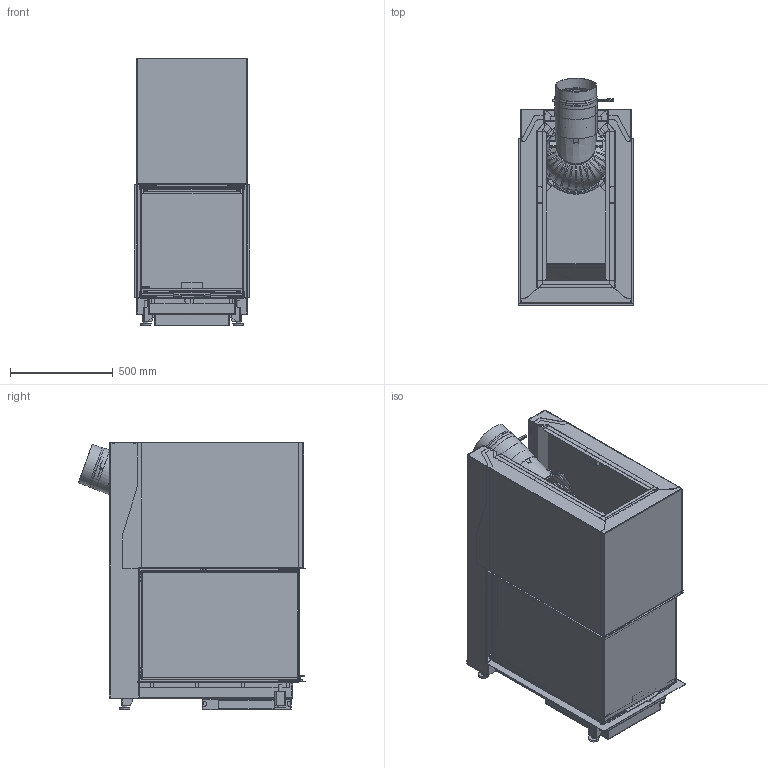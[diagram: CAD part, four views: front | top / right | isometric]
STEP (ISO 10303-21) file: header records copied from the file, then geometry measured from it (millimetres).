
FILE_DESCRIPTION(/* description */ (''),/* implementation_level */ '2;1');
FILE_NAME(/* name */ 'C:\ADSK_DM_WS\CAD_3D\03 Geraete\RIII 55x56x80\Zeichnungen\RIII 55x56x80 Gen.2 ohne Mantel Abgang hinten CAD Planung defriten 2021-03284 211124.stp',/* time_stamp */ '2021-11-24T13:30:09+01:00',/* author */ ('CPI'),/* organization */ (''),/* preprocessor_version */ 'ST-DEVELOPER v18.1',/* originating_system */ 'Autodesk Inventor 2022',/* authorisation */ '');
FILE_SCHEMA (('AUTOMOTIVE_DESIGN { 1 0 10303 214 3 1 1 }'));
Products named in the file (8): 2021-03284; 2021-03274; 2021-03276; 2021-03278; 2021-03280; 2021-03174; 2021-03193; 2018-00985
Assembly tree (7 placements, depth 2):
  2021-03284
    2021-03274
    2021-03276
    2021-03278
    2021-03280
    2021-03174
    2021-03193
    2018-00985
Bounding box: 560 x 1102.76 x 1299 mm (x, y, z)
Volume: 23996951.6 mm3; surface area: 19852570.4 mm2
Topology: 17 solids, 32 shells, 7732 faces, 21418 edges, 13502 vertices
Faces by surface type: plane 4672, cylinder 2682, bspline 221, cone 97, torus 59, sphere 1
Full cylindrical faces by diameter (mm): 3 x4, 3.242 x6, 4.8 x1, 5 x4, 6 x3, 7.5 x8, 7.9 x2, 10 x10, 10.21 x4, 12 x4, 16 x10, 20 x4, 30 x4, 163 x1, 194 x1, 198 x1, 200 x1, 204 x1, 333 x1, 339 x1
Entity records: 259163 total; most frequent: CARTESIAN_POINT 55001, ORIENTED_EDGE 42736, DIRECTION 41796, EDGE_CURVE 21425, LINE 14196, VECTOR 14196, AXIS2_PLACEMENT_3D 13800, VERTEX_POINT 13499
